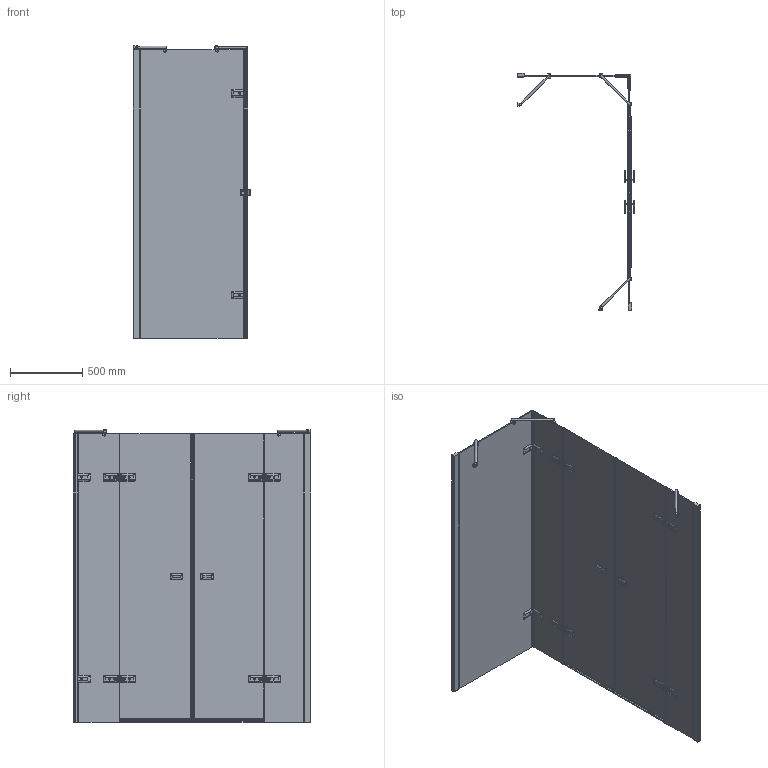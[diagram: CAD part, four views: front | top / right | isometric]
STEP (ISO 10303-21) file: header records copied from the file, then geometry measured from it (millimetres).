
FILE_DESCRIPTION(/* description */ (''),/* implementation_level */ '2;1');
FILE_NAME(/* name */ 'D:\21\TREND RECTAN GK-865P\TREND RECTAN GK-865P левая модель\TREND RECTAN GK-865P ЛЕВАЯ-3D.stp',/* time_stamp */ '2022-08-15T19:36:57+03:00',/* author */ ('User'),/* organization */ (''),/* preprocessor_version */ 'ST-DEVELOPER v15.2',/* originating_system */ 'Autodesk Inventor 2014',/* authorisation */ '');
FILE_SCHEMA (('CONFIG_CONTROL_DESIGN'));
Products named in the file (1): TREND RECTAN GK-865P ЛЕВАЯ-3D
Bounding box: 812.64 x 1643.94 x 2031.5 mm (x, y, z)
Volume: 38850772.8 mm3; surface area: 10247663.7 mm2
Topology: 25 solids, 25 shells, 2690 faces, 7085 edges, 4407 vertices
Faces by surface type: plane 1538, cylinder 696, bspline 298, torus 64, cone 64, sphere 30
Full cylindrical faces by diameter (mm): 4 x4, 5 x12, 5.2 x4, 6 x8, 7.2 x8, 8 x4, 9 x16, 11 x4, 12 x4, 13 x4, 15 x3, 16 x4, 20 x6, 26 x2
Entity records: 117509 total; most frequent: CARTESIAN_POINT 50978, ORIENTED_EDGE 13516, DIRECTION 12741, EDGE_CURVE 6754, AXIS2_PLACEMENT_3D 4363, VERTEX_POINT 4317, LINE 4015, VECTOR 4015
